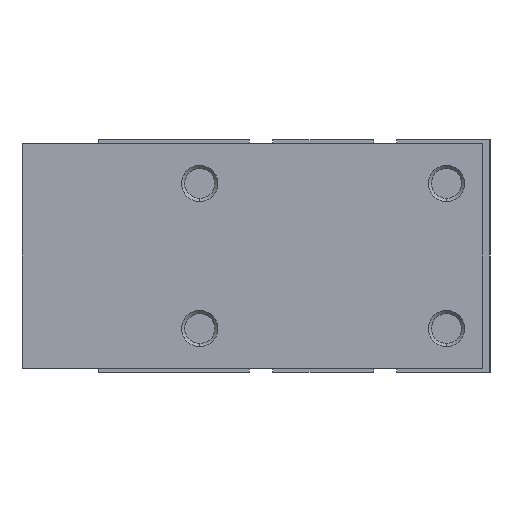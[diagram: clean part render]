
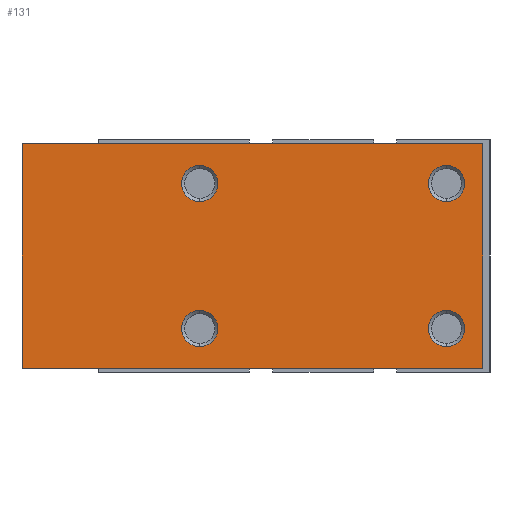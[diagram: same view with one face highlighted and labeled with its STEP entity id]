
A CAD part, left-side view. The second image highlights one B-rep face of the part: STEP entity #131.
In plain terms, the highlighted planar face has unit normal (-1, 0, 0).
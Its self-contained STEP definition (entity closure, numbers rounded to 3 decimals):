
#131 = ADVANCED_FACE ( 'NONE', ( #1204, #3556, #652, #2589, #3153 ), #2152, .F. ) ;
#172 = EDGE_CURVE ( 'NONE', #505, #4411, #2192, .T. ) ;
#176 = CIRCLE ( 'NONE', #3729, 2.5 ) ;
#189 = CARTESIAN_POINT ( 'NONE',  ( -15.5, 17., 10. ) ) ;
#258 = ORIENTED_EDGE ( 'NONE', *, *, #172, .F. ) ;
#288 = EDGE_LOOP ( 'NONE', ( #258, #2635 ) ) ;
#300 = DIRECTION ( 'NONE',  ( 0., 0., 1. ) ) ;
#381 = CIRCLE ( 'NONE', #4625, 2.5 ) ;
#426 = CARTESIAN_POINT ( 'NONE',  ( -15.5, 17., -12.5 ) ) ;
#441 = CARTESIAN_POINT ( 'NONE',  ( -15.5, -17., 10. ) ) ;
#505 = VERTEX_POINT ( 'NONE', #4492 ) ;
#554 = VERTEX_POINT ( 'NONE', #4934 ) ;
#643 = CARTESIAN_POINT ( 'NONE',  ( -15.5, -17., 12.5 ) ) ;
#652 = FACE_BOUND ( 'NONE', #4267, .T. ) ;
#729 = EDGE_CURVE ( 'NONE', #1738, #3931, #5523, .T. ) ;
#748 = CARTESIAN_POINT ( 'NONE',  ( -15.5, 41.5, 15.5 ) ) ;
#751 = CARTESIAN_POINT ( 'NONE',  ( -15.5, -22., 15.5 ) ) ;
#971 = EDGE_CURVE ( 'NONE', #4750, #4971, #3878, .T. ) ;
#973 = AXIS2_PLACEMENT_3D ( 'NONE', #4172, #2762, #6222 ) ;
#982 = CARTESIAN_POINT ( 'NONE',  ( -15.5, 17., -10. ) ) ;
#1072 = DIRECTION ( 'NONE',  ( 0., 0., 1. ) ) ;
#1075 = EDGE_LOOP ( 'NONE', ( #3517, #5247 ) ) ;
#1101 = VERTEX_POINT ( 'NONE', #2089 ) ;
#1204 = FACE_OUTER_BOUND ( 'NONE', #1523, .T. ) ;
#1384 = AXIS2_PLACEMENT_3D ( 'NONE', #2255, #4647, #300 ) ;
#1472 = AXIS2_PLACEMENT_3D ( 'NONE', #982, #2910, #1072 ) ;
#1523 = EDGE_LOOP ( 'NONE', ( #3722, #4641, #5956, #4517 ) ) ;
#1581 = AXIS2_PLACEMENT_3D ( 'NONE', #748, #5501, #5053 ) ;
#1598 = CIRCLE ( 'NONE', #5429, 2.5 ) ;
#1655 = DIRECTION ( 'NONE',  ( 0., 0., -1. ) ) ;
#1738 = VERTEX_POINT ( 'NONE', #4987 ) ;
#1763 = EDGE_CURVE ( 'NONE', #5051, #554, #3947, .T. ) ;
#1852 = CARTESIAN_POINT ( 'NONE',  ( -15.5, 41.5, -15.5 ) ) ;
#1854 = VERTEX_POINT ( 'NONE', #2288 ) ;
#1897 = DIRECTION ( 'NONE',  ( -1., 0., 0. ) ) ;
#1921 = AXIS2_PLACEMENT_3D ( 'NONE', #4153, #3685, #3751 ) ;
#1941 = DIRECTION ( 'NONE',  ( -1., 0., 0. ) ) ;
#2079 = DIRECTION ( 'NONE',  ( 0., 0., 1. ) ) ;
#2089 = CARTESIAN_POINT ( 'NONE',  ( -15.5, -22., -15.5 ) ) ;
#2144 = DIRECTION ( 'NONE',  ( -1., 0., 0. ) ) ;
#2152 = PLANE ( 'NONE',  #1581 ) ;
#2192 = CIRCLE ( 'NONE', #1384, 2.5 ) ;
#2255 = CARTESIAN_POINT ( 'NONE',  ( -15.5, 17., 10. ) ) ;
#2288 = CARTESIAN_POINT ( 'NONE',  ( -15.5, -17., 7.5 ) ) ;
#2330 = EDGE_LOOP ( 'NONE', ( #3850, #5650 ) ) ;
#2589 = FACE_BOUND ( 'NONE', #1075, .T. ) ;
#2608 = EDGE_CURVE ( 'NONE', #3931, #1738, #6055, .T. ) ;
#2635 = ORIENTED_EDGE ( 'NONE', *, *, #5577, .F. ) ;
#2715 = VECTOR ( 'NONE', #6116, 1000. ) ;
#2762 = DIRECTION ( 'NONE',  ( -1., 0., 0. ) ) ;
#2806 = DIRECTION ( 'NONE',  ( 0., 0., 1. ) ) ;
#2910 = DIRECTION ( 'NONE',  ( -1., 0., 0. ) ) ;
#3057 = CARTESIAN_POINT ( 'NONE',  ( -15.5, -17., 10. ) ) ;
#3153 = FACE_BOUND ( 'NONE', #288, .T. ) ;
#3240 = DIRECTION ( 'NONE',  ( 0., -1., 0. ) ) ;
#3381 = CARTESIAN_POINT ( 'NONE',  ( -15.5, -17., -10. ) ) ;
#3517 = ORIENTED_EDGE ( 'NONE', *, *, #2608, .F. ) ;
#3556 = FACE_BOUND ( 'NONE', #2330, .T. ) ;
#3579 = ORIENTED_EDGE ( 'NONE', *, *, #4602, .F. ) ;
#3685 = DIRECTION ( 'NONE',  ( -1., 0., 0. ) ) ;
#3722 = ORIENTED_EDGE ( 'NONE', *, *, #4762, .T. ) ;
#3729 = AXIS2_PLACEMENT_3D ( 'NONE', #189, #2144, #2079 ) ;
#3751 = DIRECTION ( 'NONE',  ( 0., 0., 1. ) ) ;
#3850 = ORIENTED_EDGE ( 'NONE', *, *, #971, .F. ) ;
#3878 = CIRCLE ( 'NONE', #1472, 2.5 ) ;
#3891 = EDGE_CURVE ( 'NONE', #1854, #5081, #1598, .T. ) ;
#3931 = VERTEX_POINT ( 'NONE', #5754 ) ;
#3947 = LINE ( 'NONE', #5892, #5208 ) ;
#4016 = CARTESIAN_POINT ( 'NONE',  ( -15.5, -22., 15.5 ) ) ;
#4153 = CARTESIAN_POINT ( 'NONE',  ( -15.5, 17., -10. ) ) ;
#4163 = LINE ( 'NONE', #1852, #2715 ) ;
#4172 = CARTESIAN_POINT ( 'NONE',  ( -15.5, -17., -10. ) ) ;
#4173 = CARTESIAN_POINT ( 'NONE',  ( -15.5, 17., 7.5 ) ) ;
#4175 = EDGE_CURVE ( 'NONE', #4736, #1101, #6065, .T. ) ;
#4222 = AXIS2_PLACEMENT_3D ( 'NONE', #3381, #1941, #5797 ) ;
#4267 = EDGE_LOOP ( 'NONE', ( #3579, #5593 ) ) ;
#4411 = VERTEX_POINT ( 'NONE', #4173 ) ;
#4420 = VECTOR ( 'NONE', #3240, 1000. ) ;
#4492 = CARTESIAN_POINT ( 'NONE',  ( -15.5, 17., 12.5 ) ) ;
#4517 = ORIENTED_EDGE ( 'NONE', *, *, #1763, .T. ) ;
#4546 = DIRECTION ( 'NONE',  ( 0., 0., 1. ) ) ;
#4602 = EDGE_CURVE ( 'NONE', #5081, #1854, #381, .T. ) ;
#4612 = CARTESIAN_POINT ( 'NONE',  ( -15.5, 17., -7.5 ) ) ;
#4625 = AXIS2_PLACEMENT_3D ( 'NONE', #3057, #4986, #4546 ) ;
#4641 = ORIENTED_EDGE ( 'NONE', *, *, #4175, .F. ) ;
#4647 = DIRECTION ( 'NONE',  ( -1., 0., 0. ) ) ;
#4736 = VERTEX_POINT ( 'NONE', #751 ) ;
#4750 = VERTEX_POINT ( 'NONE', #4612 ) ;
#4762 = EDGE_CURVE ( 'NONE', #554, #1101, #4163, .T. ) ;
#4934 = CARTESIAN_POINT ( 'NONE',  ( -15.5, 41.5, -15.5 ) ) ;
#4971 = VERTEX_POINT ( 'NONE', #426 ) ;
#4986 = DIRECTION ( 'NONE',  ( -1., 0., 0. ) ) ;
#4987 = CARTESIAN_POINT ( 'NONE',  ( -15.5, -17., -12.5 ) ) ;
#5051 = VERTEX_POINT ( 'NONE', #6008 ) ;
#5053 = DIRECTION ( 'NONE',  ( 0., 1., 0. ) ) ;
#5081 = VERTEX_POINT ( 'NONE', #643 ) ;
#5137 = CIRCLE ( 'NONE', #1921, 2.5 ) ;
#5175 = CARTESIAN_POINT ( 'NONE',  ( -15.5, 41.5, 15.5 ) ) ;
#5208 = VECTOR ( 'NONE', #5412, 1000. ) ;
#5218 = EDGE_CURVE ( 'NONE', #5051, #4736, #6171, .T. ) ;
#5247 = ORIENTED_EDGE ( 'NONE', *, *, #729, .F. ) ;
#5412 = DIRECTION ( 'NONE',  ( 0., 0., -1. ) ) ;
#5429 = AXIS2_PLACEMENT_3D ( 'NONE', #441, #1897, #2806 ) ;
#5501 = DIRECTION ( 'NONE',  ( 1., 0., 0. ) ) ;
#5523 = CIRCLE ( 'NONE', #973, 2.5 ) ;
#5577 = EDGE_CURVE ( 'NONE', #4411, #505, #176, .T. ) ;
#5593 = ORIENTED_EDGE ( 'NONE', *, *, #3891, .F. ) ;
#5650 = ORIENTED_EDGE ( 'NONE', *, *, #5741, .F. ) ;
#5741 = EDGE_CURVE ( 'NONE', #4971, #4750, #5137, .T. ) ;
#5754 = CARTESIAN_POINT ( 'NONE',  ( -15.5, -17., -7.5 ) ) ;
#5797 = DIRECTION ( 'NONE',  ( 0., 0., 1. ) ) ;
#5892 = CARTESIAN_POINT ( 'NONE',  ( -15.5, 41.5, 15.5 ) ) ;
#5956 = ORIENTED_EDGE ( 'NONE', *, *, #5218, .F. ) ;
#6008 = CARTESIAN_POINT ( 'NONE',  ( -15.5, 41.5, 15.5 ) ) ;
#6055 = CIRCLE ( 'NONE', #4222, 2.5 ) ;
#6065 = LINE ( 'NONE', #4016, #6256 ) ;
#6116 = DIRECTION ( 'NONE',  ( 0., -1., 0. ) ) ;
#6171 = LINE ( 'NONE', #5175, #4420 ) ;
#6222 = DIRECTION ( 'NONE',  ( 0., 0., 1. ) ) ;
#6256 = VECTOR ( 'NONE', #1655, 1000. ) ;
